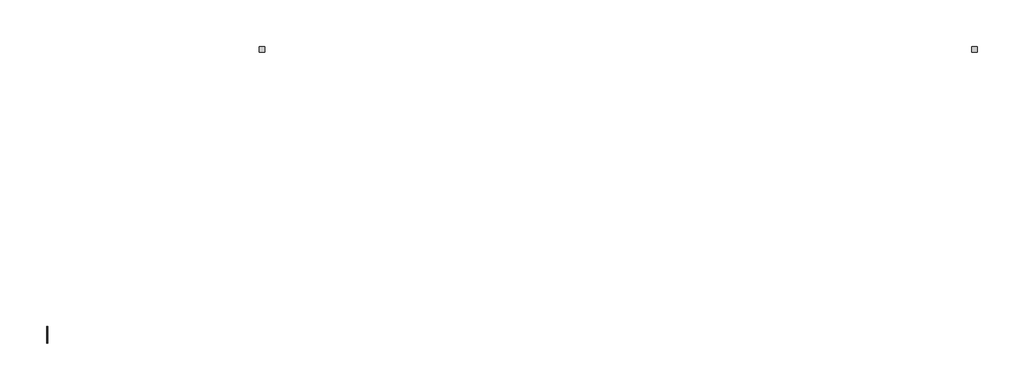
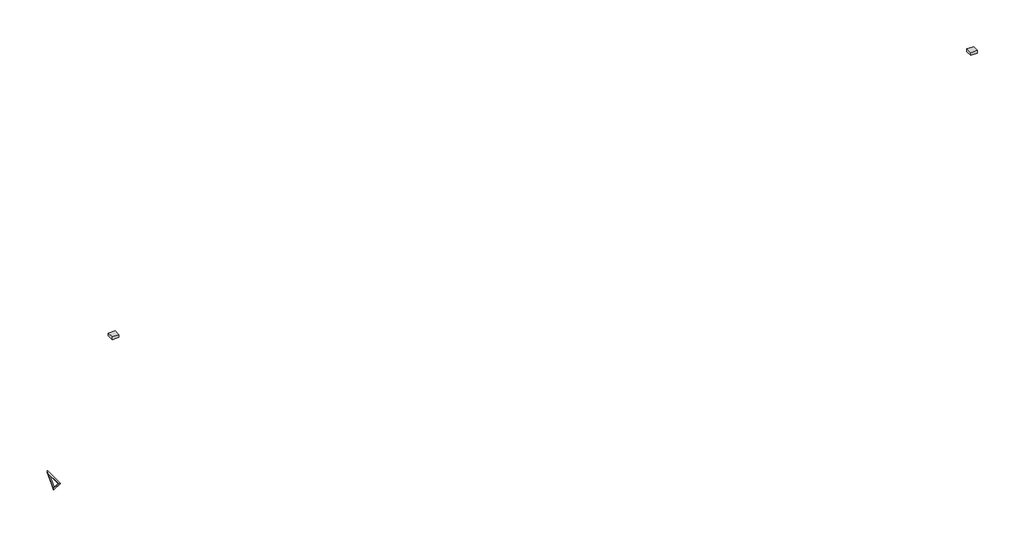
# One storey, incomplete: 2 cable carrier fittings, 1 plate.
"""IFC4 building model written with IfcOpenShell, lengths in millimetres."""

from ifc_helpers import new_model, si_unit, origin, place, context, project, spatial, transform, mapped, element, save
from components import cable_carrier_fitting_8073d2f8, plate_b1349e85

model = new_model("IFC4")

# Units and contexts
model_context = context("Model", 3, world=origin())
ifc_project = project(units=[si_unit("LENGTHUNIT", "METRE", prefix="MILLI")], contexts=[model_context])

# Site, building, storey
site = spatial("IfcSite", under=ifc_project)
building = spatial("IfcBuilding", under=site)
storey = spatial("IfcBuildingStorey", under=building, Name="FUNDAÇÃO", Elevation=-1000.0)

# Cable carrier fittings
placement = place(None, origin())
cable_carrier_fitting_shape = cable_carrier_fitting_8073d2f8(model_context)
element("IfcCableCarrierFitting", 1, ObjectType="M_Caixa de junção do conduíte - Cruzamento - Alumínio : Caixa de junção do conduíte - Cruzamento - Alumínio", at=placement, inside=storey, context=model_context, shape_type="MappedRepresentation", body=[
    mapped(cable_carrier_fitting_shape, transform((141295.2229105, -69608.1676725, -2400.0), x_axis=(1.0, 0.0, 0.0), y_axis=(0.0, 1.0, 0.0), z_axis=(0.0, 0.0, 1.0))),
])
element("IfcCableCarrierFitting", 2, ObjectType="M_Caixa de junção do conduíte - Cruzamento - Alumínio : Caixa de junção do conduíte - Cruzamento - Alumínio", at=placement, inside=storey, context=model_context, shape_type="MappedRepresentation", body=[
    mapped(cable_carrier_fitting_shape, transform((126295.2229105, -69608.1676725, -2400.0), x_axis=(1.0, 0.0, 0.0), y_axis=(0.0, 1.0, 0.0), z_axis=(0.0, 0.0, 1.0))),
])

# Plate
plate_shape = plate_b1349e85(model_context)
element("IfcPlate", 3, ObjectType="ZZK PilotoBIM : ZZK PilotoBIM", at=placement, inside=storey, context=model_context, shape_type="MappedRepresentation", body=[
    mapped(plate_shape, transform((121772.1130003, -69531.6625049, -4948.75), x_axis=(0.0, -1.0, 0.0), y_axis=(0.0, 0.0, 1.0), z_axis=(-1.0, 0.0, 0.0))),
])

save(model, "model.ifc")
